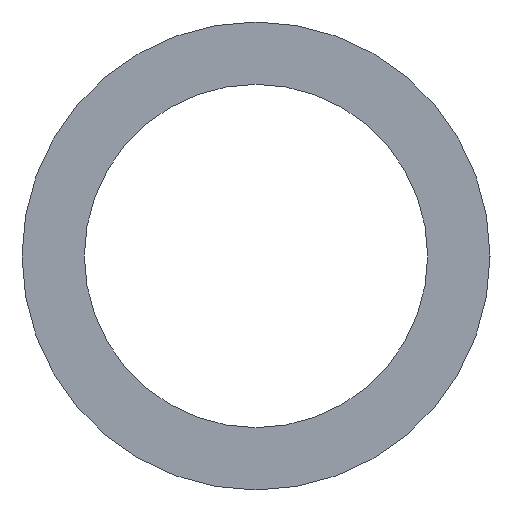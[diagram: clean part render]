
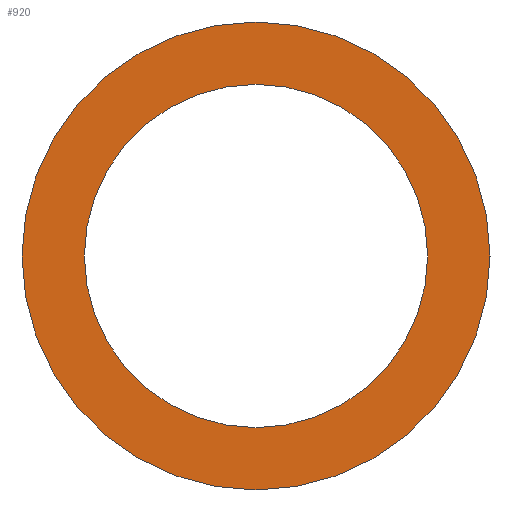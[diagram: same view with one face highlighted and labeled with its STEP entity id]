
A CAD part, left-side view. The second image highlights one B-rep face of the part: STEP entity #920.
In plain terms, the highlighted planar face has unit normal (-1, 0, 0).
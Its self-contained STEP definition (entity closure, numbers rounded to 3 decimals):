
#570=CARTESIAN_POINT('',(42.576,57.963,0.));
#580=DIRECTION('',(-1.,-0.,0.));
#590=DIRECTION('',(0.,-1.,0.));
#600=AXIS2_PLACEMENT_3D('',#570,#580,#590);
#610=PLANE('',#600);
#620=CARTESIAN_POINT('',(42.576,39.288,0.));
#630=DIRECTION('',(1.,0.,0.));
#640=DIRECTION('',(0.,1.,0.));
#650=AXIS2_PLACEMENT_3D('',#620,#630,#640);
#660=CIRCLE('',#650,13.9);
#670=CARTESIAN_POINT('',(42.576,53.188,0.));
#680=VERTEX_POINT('',#670);
#690=CARTESIAN_POINT('',(42.576,25.388,0.));
#700=VERTEX_POINT('',#690);
#710=EDGE_CURVE('',#680,#700,#660,.T.);
#720=ORIENTED_EDGE('',*,*,#710,.T.);
#730=EDGE_CURVE('',#700,#680,#660,.T.);
#740=ORIENTED_EDGE('',*,*,#730,.T.);
#750=EDGE_LOOP('',(#740,#720));
#760=FACE_BOUND('',#750,.T.);
#770=CARTESIAN_POINT('',(42.576,39.288,0.));
#780=DIRECTION('',(1.,0.,0.));
#790=DIRECTION('',(0.,1.,0.));
#800=AXIS2_PLACEMENT_3D('',#770,#780,#790);
#810=CIRCLE('',#800,18.95);
#820=CARTESIAN_POINT('',(42.576,58.238,0.));
#830=VERTEX_POINT('',#820);
#840=CARTESIAN_POINT('',(42.576,20.338,0.));
#850=VERTEX_POINT('',#840);
#860=EDGE_CURVE('',#830,#850,#810,.T.);
#870=ORIENTED_EDGE('',*,*,#860,.F.);
#880=EDGE_CURVE('',#850,#830,#810,.T.);
#890=ORIENTED_EDGE('',*,*,#880,.F.);
#900=EDGE_LOOP('',(#890,#870));
#910=FACE_OUTER_BOUND('',#900,.T.);
#920=ADVANCED_FACE('',(#760,#910),#610,.T.);
